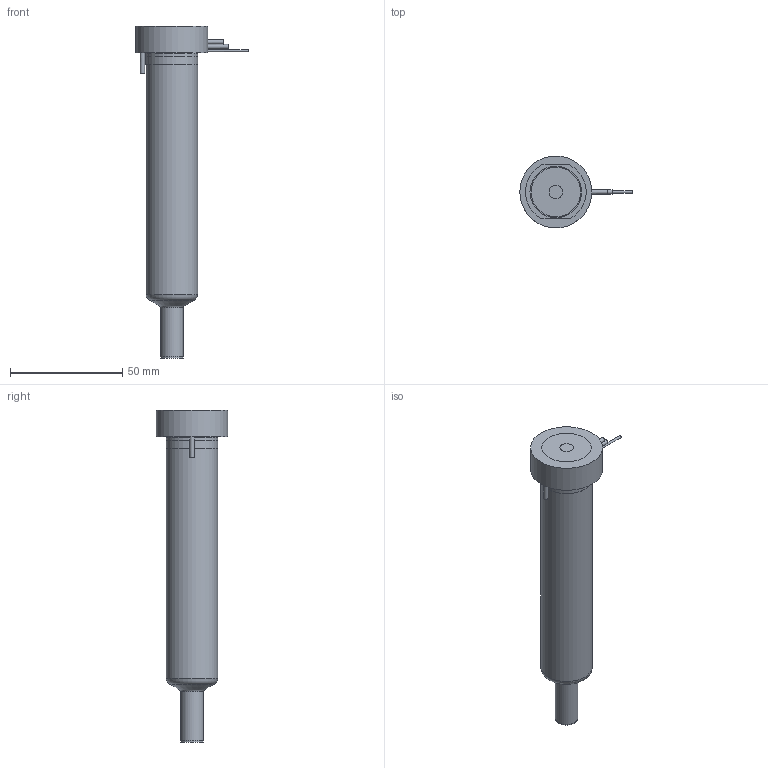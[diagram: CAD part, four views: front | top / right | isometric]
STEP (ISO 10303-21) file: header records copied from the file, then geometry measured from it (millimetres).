
FILE_DESCRIPTION(/* description */ (''),/* implementation_level */ '2;1');
FILE_NAME(/* name */ 'MXYCN13115P4F_250C_a',/* time_stamp */ '2016-02-26T13:42:01+13:00',/* author */ (''),/* organization */ (''),/* preprocessor_version */ 'ST-DEVELOPER v9',/* originating_system */ 'UGS - NX 4.0',/* authorisation */ '');
FILE_SCHEMA (('CONFIG_CONTROL_DESIGN'));
Length unit declared in the file: millimetre
Products named in the file (1): matt70754g0u
Bounding box: 49.95 x 32 x 147.67 mm (x, y, z)
Volume: 95046.6 mm3; surface area: 21927.8 mm2
Topology: 2 solids, 2 shells, 71 faces, 156 edges, 102 vertices
Faces by surface type: plane 31, cylinder 26, torus 7, cone 5, bspline 1, sphere 1
Full cylindrical faces by diameter (mm): 1 x2, 1.8 x1, 2 x3, 4 x1, 6 x1, 9.61 x1, 9.995 x2, 12.6 x1, 18.8 x1, 22.9 x1, 23 x2, 32 x1
Entity records: 2121 total; most frequent: CARTESIAN_POINT 614, DIRECTION 314, ORIENTED_EDGE 234, AXIS2_PLACEMENT_3D 141, EDGE_CURVE 117, EDGE_LOOP 114, VERTEX_POINT 91, ADVANCED_FACE 71
